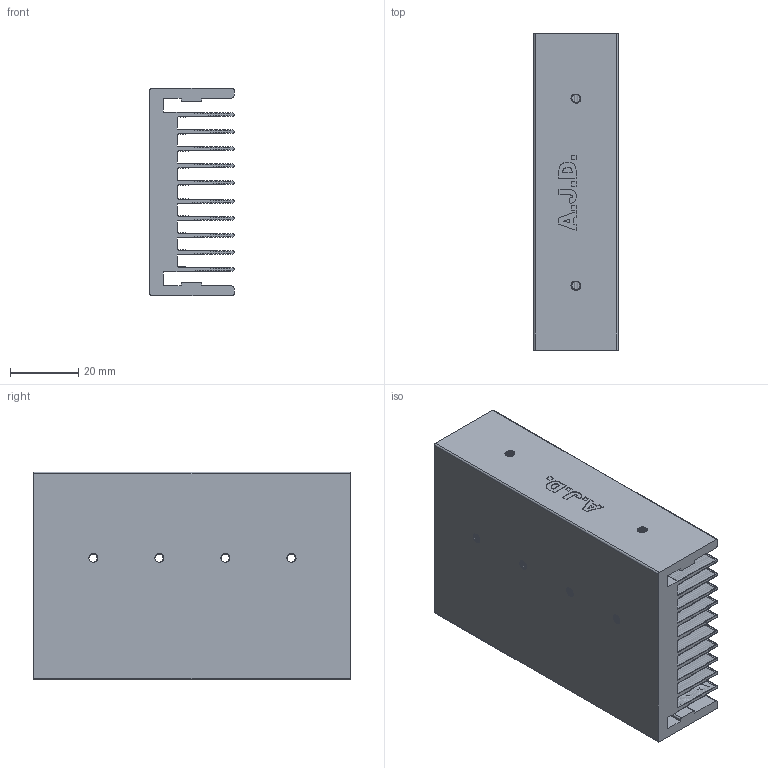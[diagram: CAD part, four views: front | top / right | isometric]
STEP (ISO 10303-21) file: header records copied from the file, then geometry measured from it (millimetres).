
FILE_DESCRIPTION (( 'STEP AP214' ), '1' );
FILE_NAME ('C_TO-247x4_24,8x61xZ.STEP', '2025-06-03T21:03:42', ( '' ), ( '' ), 'SwSTEP 2.0', 'SolidWorks 2024', '' );
FILE_SCHEMA (( 'AUTOMOTIVE_DESIGN' ));
Length unit declared in the file: millimetre
Products named in the file (1): C_TO-247x4_24,8x61xZ
Bounding box: 24.8 x 93 x 61 mm (x, y, z)
Volume: 69950 mm3; surface area: 55716 mm2
Topology: 1 solids, 1 shells, 426 faces, 1263 edges, 845 vertices
Faces by surface type: cylinder 226, plane 111, bspline 89
Entity records: 49200 total; most frequent: CARTESIAN_POINT 39720, ORIENTED_EDGE 2526, DIRECTION 1332, EDGE_CURVE 1263, VERTEX_POINT 845, VECTOR 542, LINE 542, EDGE_LOOP 454
